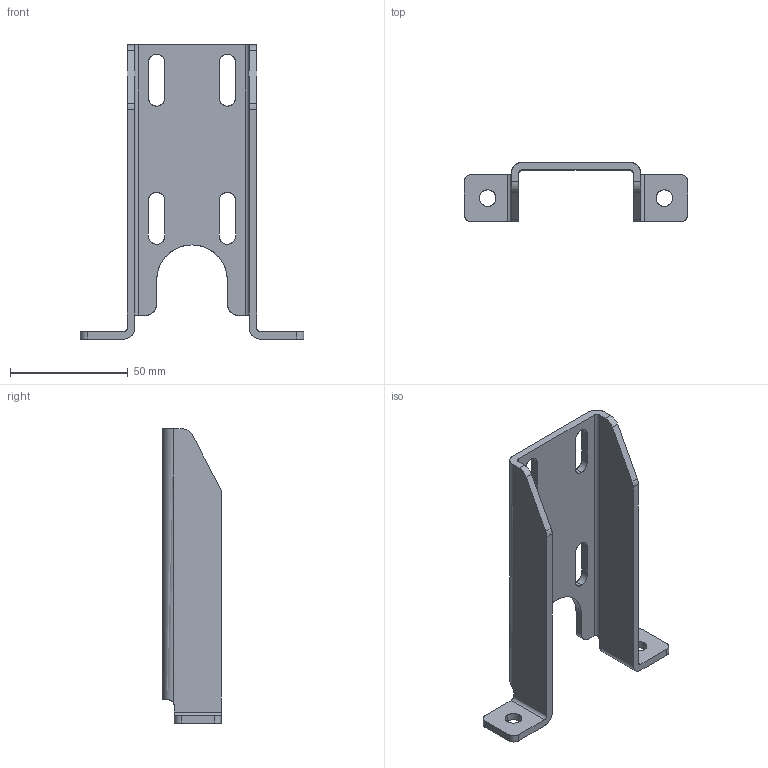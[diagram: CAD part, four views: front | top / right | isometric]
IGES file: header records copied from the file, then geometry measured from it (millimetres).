
Start section: SolidWorks IGES file using analytic representation for surfaces
Global section: file name: X:\11_SW2020-Inv2020\00_全2021-11新製品まで\l\LSB125A\lsb125a.IGS; native system: SolidWorks 2020; preprocessor: SolidWorks 2020; author: ImaoCorp; date: 211025.115743; units: millimetre
Bounding box: 95 x 25 x 125 mm (x, y, z)
Surface area: 23266.6 mm2 (no closed solid volume)
Topology: 0 solids, 0 shells, 70 faces, 1072 edges, 1072 vertices
Faces by surface type: revolution 37, bspline 33
